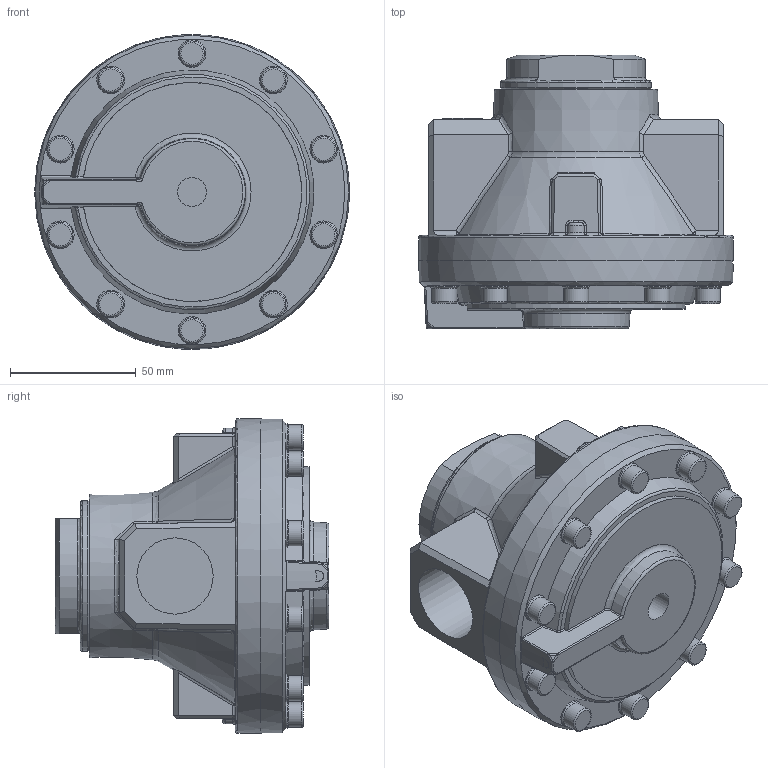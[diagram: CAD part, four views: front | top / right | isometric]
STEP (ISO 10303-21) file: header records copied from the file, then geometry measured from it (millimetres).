
FILE_DESCRIPTION(/* description */ (''),/* implementation_level */ '2;1');
FILE_NAME(/* name */ 'C:\Users\Devin.Druske\Desktop\DRI.55 N.stp',/* time_stamp */ '2020-10-15T14:04:32+02:00',/* author */ ('Devin.Druske'),/* organization */ (''),/* preprocessor_version */ 'ST-DEVELOPER v18',/* originating_system */ 'Autodesk Inventor 2020',/* authorisation */ '');
FILE_SCHEMA (('AUTOMOTIVE_DESIGN { 1 0 10303 214 3 1 1 }'));
Length unit declared in the file: millimetre
Products named in the file (1): 10022536
Bounding box: 125 x 108.7 x 125 mm (x, y, z)
Volume: 682781.8 mm3; surface area: 71234.1 mm2
Topology: 1 solids, 1 shells, 487 faces, 1248 edges, 773 vertices
Faces by surface type: plane 180, cone 92, cylinder 78, bspline 73, torus 44, sphere 20
Full cylindrical faces by diameter (mm): 4.917 x4, 10 x10, 11 x10, 11.445 x1, 30.291 x2, 60 x1, 86 x1, 125 x1
Entity records: 17814 total; most frequent: CARTESIAN_POINT 5940, ORIENTED_EDGE 2476, DIRECTION 2248, EDGE_CURVE 1238, AXIS2_PLACEMENT_3D 899, VERTEX_POINT 773, EDGE_LOOP 509, FACE_OUTER_BOUND 487
